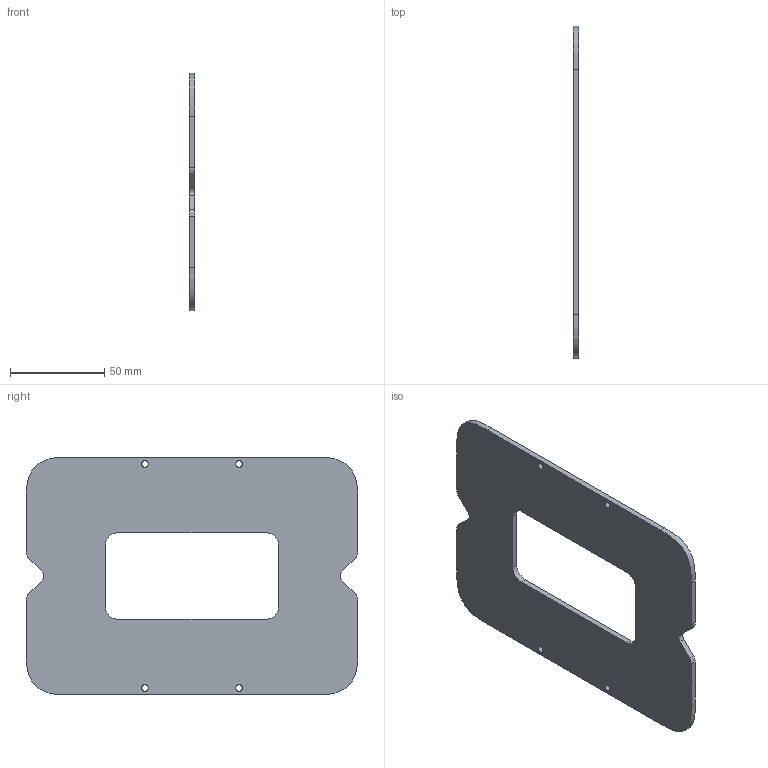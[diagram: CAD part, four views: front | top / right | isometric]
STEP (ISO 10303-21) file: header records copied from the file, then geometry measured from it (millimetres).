
FILE_DESCRIPTION(/* description */ (''),/* implementation_level */ '2;1');
FILE_NAME(/* name */ 'EXTERNAL BACK PLATE.step',/* time_stamp */ '2024-02-28T16:53:23Z',/* author */ (''),/* organization */ (''),/* preprocessor_version */ 'ST-DEVELOPER v20',/* originating_system */ 'Autodesk Translation Framework v12.20.1.177',/* authorisation */ '');
FILE_SCHEMA (('AUTOMOTIVE_DESIGN { 1 0 10303 214 3 1 1 }'));
Length unit declared in the file: millimetre
Products named in the file (1): EXTERNAL BACK PLATE
Bounding box: 3 x 176 x 126 mm (x, y, z)
Volume: 52457.8 mm3; surface area: 37662 mm2
Topology: 1 solids, 1 shells, 34 faces, 96 edges, 64 vertices
Faces by surface type: plane 16, cylinder 14, bspline 4
Full cylindrical faces by diameter (mm): 3.5 x4
Entity records: 1384 total; most frequent: CARTESIAN_POINT 439, ORIENTED_EDGE 192, DIRECTION 178, EDGE_CURVE 96, VERTEX_POINT 64, LINE 60, VECTOR 60, AXIS2_PLACEMENT_3D 59
